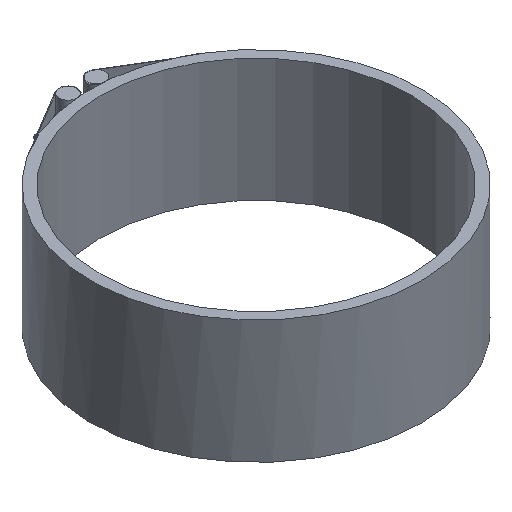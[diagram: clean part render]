
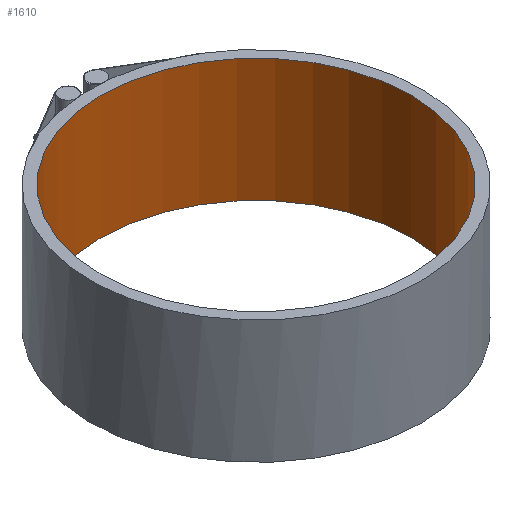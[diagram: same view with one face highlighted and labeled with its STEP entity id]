
A CAD part, isometric view. The second image highlights one B-rep face of the part: STEP entity #1610.
In plain terms, the highlighted cylindrical face has radius 177.5 mm (diameter 355 mm), a full revolution.
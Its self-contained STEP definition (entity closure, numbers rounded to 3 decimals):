
#364=CYLINDRICAL_SURFACE('',#1752,177.5);
#418=FACE_BOUND('',#594,.T.);
#466=FACE_OUTER_BOUND('',#593,.T.);
#593=EDGE_LOOP('',(#1313));
#594=EDGE_LOOP('',(#1314));
#691=CIRCLE('',#1753,177.5);
#692=CIRCLE('',#1754,177.5);
#831=VERTEX_POINT('',#2856);
#832=VERTEX_POINT('',#2858);
#1007=EDGE_CURVE('',#831,#831,#691,.T.);
#1008=EDGE_CURVE('',#832,#832,#692,.T.);
#1313=ORIENTED_EDGE('',*,*,#1007,.F.);
#1314=ORIENTED_EDGE('',*,*,#1008,.F.);
#1610=ADVANCED_FACE('',(#466,#418),#364,.F.);
#1752=AXIS2_PLACEMENT_3D('',#2855,#2089,#2090);
#1753=AXIS2_PLACEMENT_3D('',#2857,#2091,#2092);
#1754=AXIS2_PLACEMENT_3D('',#2859,#2093,#2094);
#2089=DIRECTION('center_axis',(0.,0.,1.));
#2090=DIRECTION('ref_axis',(-1.,0.,0.));
#2091=DIRECTION('center_axis',(0.,0.,1.));
#2092=DIRECTION('ref_axis',(-1.,0.,0.));
#2093=DIRECTION('center_axis',(0.,0.,-1.));
#2094=DIRECTION('ref_axis',(-1.,0.,0.));
#2855=CARTESIAN_POINT('Origin',(0.,0.,0.));
#2856=CARTESIAN_POINT('',(177.5,0.,-70.5));
#2857=CARTESIAN_POINT('Origin',(0.,0.,-70.5));
#2858=CARTESIAN_POINT('',(177.5,0.,70.5));
#2859=CARTESIAN_POINT('Origin',(0.,0.,70.5));
